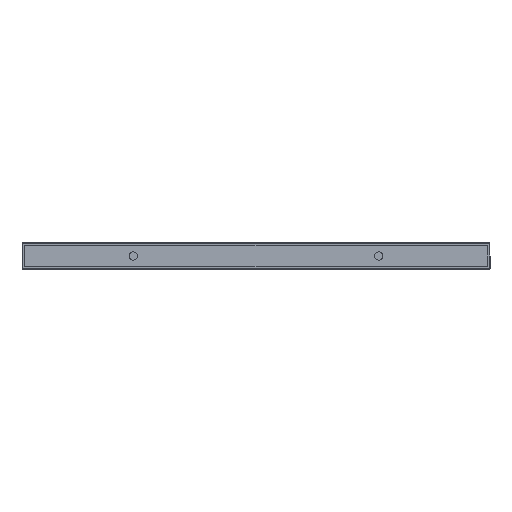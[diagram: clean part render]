
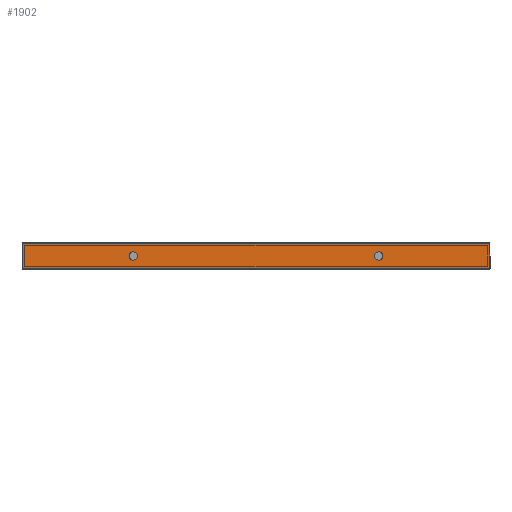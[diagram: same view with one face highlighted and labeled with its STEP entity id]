
A CAD part, front view. The second image highlights one B-rep face of the part: STEP entity #1902.
In plain terms, the highlighted planar face has unit normal (0, -1, 0) as drawn and (-1, 0, 0) by its records, which use the part's own axes.
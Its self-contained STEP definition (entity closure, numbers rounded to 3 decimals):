
#20 = CIRCLE ( 'NONE', #2870, 2.5 ) ;
#119 = CARTESIAN_POINT ( 'NONE',  ( -8., -75., 2.5 ) ) ;
#123 = VERTEX_POINT ( 'NONE', #1675 ) ;
#129 = AXIS2_PLACEMENT_3D ( 'NONE', #1527, #3289, #1545 ) ;
#133 = EDGE_CURVE ( 'NONE', #457, #3556, #917, .T. ) ;
#179 = CARTESIAN_POINT ( 'NONE',  ( -8., 143., -7.5 ) ) ;
#195 = ORIENTED_EDGE ( 'NONE', *, *, #133, .F. ) ;
#223 = DIRECTION ( 'NONE',  ( 0., 0., 1. ) ) ;
#435 = AXIS2_PLACEMENT_3D ( 'NONE', #2242, #580, #1379 ) ;
#457 = VERTEX_POINT ( 'NONE', #3364 ) ;
#458 = DIRECTION ( 'NONE',  ( -1., 0., 0. ) ) ;
#475 = CARTESIAN_POINT ( 'NONE',  ( -8., -143., -7.5 ) ) ;
#499 = LINE ( 'NONE', #516, #1092 ) ;
#516 = CARTESIAN_POINT ( 'NONE',  ( -8., 143., -7.5 ) ) ;
#524 = VERTEX_POINT ( 'NONE', #2635 ) ;
#554 = EDGE_LOOP ( 'NONE', ( #2885, #2637 ) ) ;
#580 = DIRECTION ( 'NONE',  ( -1., 0., 0. ) ) ;
#733 = EDGE_LOOP ( 'NONE', ( #2046, #3655, #1489, #2996 ) ) ;
#765 = EDGE_CURVE ( 'NONE', #3556, #457, #2184, .T. ) ;
#773 = CARTESIAN_POINT ( 'NONE',  ( -8., 75., 0. ) ) ;
#917 = CIRCLE ( 'NONE', #2791, 2.5 ) ;
#945 = FACE_OUTER_BOUND ( 'NONE', #733, .T. ) ;
#1092 = VECTOR ( 'NONE', #223, 1000. ) ;
#1128 = DIRECTION ( 'NONE',  ( 0., -1., 0. ) ) ;
#1136 = DIRECTION ( 'NONE',  ( -1., 0., 0. ) ) ;
#1192 = CARTESIAN_POINT ( 'NONE',  ( -8., 143., -7.5 ) ) ;
#1233 = EDGE_CURVE ( 'NONE', #3668, #524, #499, .T. ) ;
#1341 = VERTEX_POINT ( 'NONE', #2235 ) ;
#1361 = DIRECTION ( 'NONE',  ( 0., 0., 1. ) ) ;
#1379 = DIRECTION ( 'NONE',  ( 0., 0., 1. ) ) ;
#1417 = CARTESIAN_POINT ( 'NONE',  ( -8., 143., 7.5 ) ) ;
#1489 = ORIENTED_EDGE ( 'NONE', *, *, #1233, .F. ) ;
#1490 = DIRECTION ( 'NONE',  ( 0., -1., 0. ) ) ;
#1519 = AXIS2_PLACEMENT_3D ( 'NONE', #2998, #2105, #3324 ) ;
#1527 = CARTESIAN_POINT ( 'NONE',  ( -8., -75., 0. ) ) ;
#1545 = DIRECTION ( 'NONE',  ( 0., 0., 1. ) ) ;
#1565 = FACE_BOUND ( 'NONE', #554, .T. ) ;
#1642 = DIRECTION ( 'NONE',  ( 0., 0., 1. ) ) ;
#1664 = LINE ( 'NONE', #475, #2823 ) ;
#1675 = CARTESIAN_POINT ( 'NONE',  ( -8., -143., -7.5 ) ) ;
#1717 = CARTESIAN_POINT ( 'NONE',  ( -8., -75., 0. ) ) ;
#1902 = ADVANCED_FACE ( 'NONE', ( #1565, #2157, #945 ), #2138, .F. ) ;
#1983 = LINE ( 'NONE', #1192, #3088 ) ;
#2046 = ORIENTED_EDGE ( 'NONE', *, *, #3363, .T. ) ;
#2105 = DIRECTION ( 'NONE',  ( 1., 0., 0. ) ) ;
#2135 = EDGE_CURVE ( 'NONE', #3668, #123, #1983, .T. ) ;
#2138 = PLANE ( 'NONE',  #1519 ) ;
#2157 = FACE_BOUND ( 'NONE', #3636, .T. ) ;
#2169 = VERTEX_POINT ( 'NONE', #2632 ) ;
#2184 = CIRCLE ( 'NONE', #129, 2.5 ) ;
#2232 = EDGE_CURVE ( 'NONE', #524, #1341, #2573, .T. ) ;
#2235 = CARTESIAN_POINT ( 'NONE',  ( -8., -143., 7.5 ) ) ;
#2242 = CARTESIAN_POINT ( 'NONE',  ( -8., 75., 0. ) ) ;
#2559 = CIRCLE ( 'NONE', #435, 2.5 ) ;
#2573 = LINE ( 'NONE', #1417, #3686 ) ;
#2632 = CARTESIAN_POINT ( 'NONE',  ( -8., 75., -2.5 ) ) ;
#2635 = CARTESIAN_POINT ( 'NONE',  ( -8., 143., 7.5 ) ) ;
#2637 = ORIENTED_EDGE ( 'NONE', *, *, #3741, .F. ) ;
#2791 = AXIS2_PLACEMENT_3D ( 'NONE', #1717, #1136, #1361 ) ;
#2823 = VECTOR ( 'NONE', #1642, 1000. ) ;
#2870 = AXIS2_PLACEMENT_3D ( 'NONE', #773, #458, #3414 ) ;
#2885 = ORIENTED_EDGE ( 'NONE', *, *, #3078, .F. ) ;
#2993 = CARTESIAN_POINT ( 'NONE',  ( -8., 75., 2.5 ) ) ;
#2996 = ORIENTED_EDGE ( 'NONE', *, *, #2135, .T. ) ;
#2998 = CARTESIAN_POINT ( 'NONE',  ( -8., 143., -7.5 ) ) ;
#3078 = EDGE_CURVE ( 'NONE', #3593, #2169, #2559, .T. ) ;
#3088 = VECTOR ( 'NONE', #1490, 1000. ) ;
#3289 = DIRECTION ( 'NONE',  ( -1., 0., 0. ) ) ;
#3324 = DIRECTION ( 'NONE',  ( 0., 0., -1. ) ) ;
#3363 = EDGE_CURVE ( 'NONE', #123, #1341, #1664, .T. ) ;
#3364 = CARTESIAN_POINT ( 'NONE',  ( -8., -75., -2.5 ) ) ;
#3414 = DIRECTION ( 'NONE',  ( 0., 0., 1. ) ) ;
#3417 = ORIENTED_EDGE ( 'NONE', *, *, #765, .F. ) ;
#3556 = VERTEX_POINT ( 'NONE', #119 ) ;
#3593 = VERTEX_POINT ( 'NONE', #2993 ) ;
#3636 = EDGE_LOOP ( 'NONE', ( #3417, #195 ) ) ;
#3655 = ORIENTED_EDGE ( 'NONE', *, *, #2232, .F. ) ;
#3668 = VERTEX_POINT ( 'NONE', #179 ) ;
#3686 = VECTOR ( 'NONE', #1128, 1000. ) ;
#3741 = EDGE_CURVE ( 'NONE', #2169, #3593, #20, .T. ) ;
